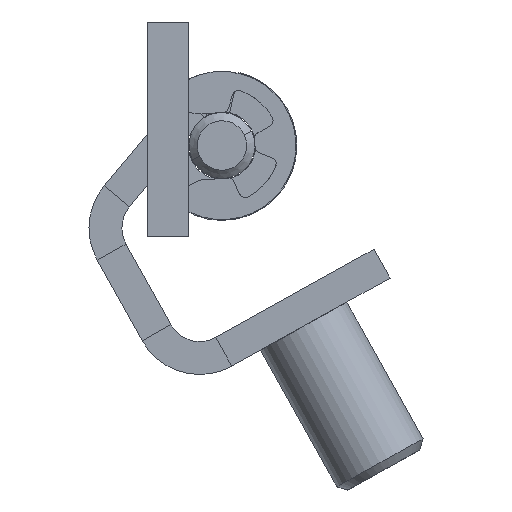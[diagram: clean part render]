
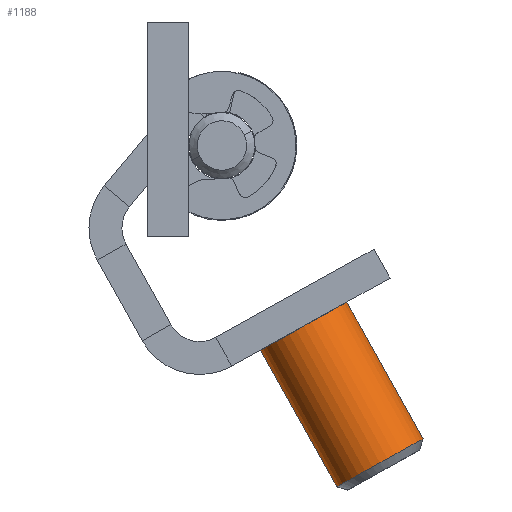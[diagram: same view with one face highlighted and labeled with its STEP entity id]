
A CAD part, front view. The second image highlights one B-rep face of the part: STEP entity #1188.
In plain terms, the highlighted cylindrical face has radius 3 mm (diameter 6 mm), a partial arc.
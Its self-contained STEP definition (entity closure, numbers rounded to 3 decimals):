
#1114 = ORIENTED_EDGE ( 'NONE', *, *, #1115, .F. ) ;
#1115 = EDGE_CURVE ( 'NONE', #1306, #1117, #3263, .T. ) ;
#1117 = VERTEX_POINT ( 'NONE', #3259 ) ;
#1123 = ORIENTED_EDGE ( 'NONE', *, *, #1207, .T. ) ;
#1187 = VERTEX_POINT ( 'NONE', #3586 ) ;
#1188 = ADVANCED_FACE ( 'NONE', ( #3585 ), #3511, .T. ) ;
#1197 = EDGE_LOOP ( 'NONE', ( #1201, #1123, #1208, #1114 ) ) ;
#1201 = ORIENTED_EDGE ( 'NONE', *, *, #1305, .T. ) ;
#1206 = EDGE_CURVE ( 'NONE', #1187, #1117, #3571, .T. ) ;
#1207 = EDGE_CURVE ( 'NONE', #1300, #1187, #3486, .T. ) ;
#1208 = ORIENTED_EDGE ( 'NONE', *, *, #1206, .T. ) ;
#1300 = VERTEX_POINT ( 'NONE', #3675 ) ;
#1305 = EDGE_CURVE ( 'NONE', #1306, #1300, #3712, .T. ) ;
#1306 = VERTEX_POINT ( 'NONE', #3744 ) ;
#3259 = CARTESIAN_POINT ( 'NONE',  ( -4., -2., 67.5 ) ) ;
#3260 = DIRECTION ( 'NONE',  ( 0., 1., 0. ) ) ;
#3261 = VECTOR ( 'NONE', #3260, 1000. ) ;
#3262 = CARTESIAN_POINT ( 'NONE',  ( -4., -12., 67.5 ) ) ;
#3263 = LINE ( 'NONE', #3262, #3261 ) ;
#3483 = DIRECTION ( 'NONE',  ( 0., 1., 0. ) ) ;
#3484 = VECTOR ( 'NONE', #3483, 1000. ) ;
#3485 = CARTESIAN_POINT ( 'NONE',  ( 2., -12., 67.5 ) ) ;
#3486 = LINE ( 'NONE', #3485, #3484 ) ;
#3508 = DIRECTION ( 'NONE',  ( -1., 0., 0. ) ) ;
#3509 = DIRECTION ( 'NONE',  ( 0., 1., 0. ) ) ;
#3510 = AXIS2_PLACEMENT_3D ( 'NONE', #3513, #3509, #3508 ) ;
#3511 = CYLINDRICAL_SURFACE ( 'NONE', #3510, 3. ) ;
#3513 = CARTESIAN_POINT ( 'NONE',  ( -1., -12., 67.5 ) ) ;
#3567 = DIRECTION ( 'NONE',  ( 1., 0., 0. ) ) ;
#3568 = DIRECTION ( 'NONE',  ( 0., -1., 0. ) ) ;
#3569 = CARTESIAN_POINT ( 'NONE',  ( -1., -2., 67.5 ) ) ;
#3570 = AXIS2_PLACEMENT_3D ( 'NONE', #3569, #3568, #3567 ) ;
#3571 = CIRCLE ( 'NONE', #3570, 3. ) ;
#3585 = FACE_OUTER_BOUND ( 'NONE', #1197, .T. ) ;
#3586 = CARTESIAN_POINT ( 'NONE',  ( 2., -2., 67.5 ) ) ;
#3675 = CARTESIAN_POINT ( 'NONE',  ( 2., -11.5, 67.5 ) ) ;
#3708 = DIRECTION ( 'NONE',  ( 1., 0., 0. ) ) ;
#3709 = DIRECTION ( 'NONE',  ( 0., 1., 0. ) ) ;
#3710 = CARTESIAN_POINT ( 'NONE',  ( -1., -11.5, 67.5 ) ) ;
#3711 = AXIS2_PLACEMENT_3D ( 'NONE', #3710, #3709, #3708 ) ;
#3712 = CIRCLE ( 'NONE', #3711, 3. ) ;
#3744 = CARTESIAN_POINT ( 'NONE',  ( -4., -11.5, 67.5 ) ) ;
